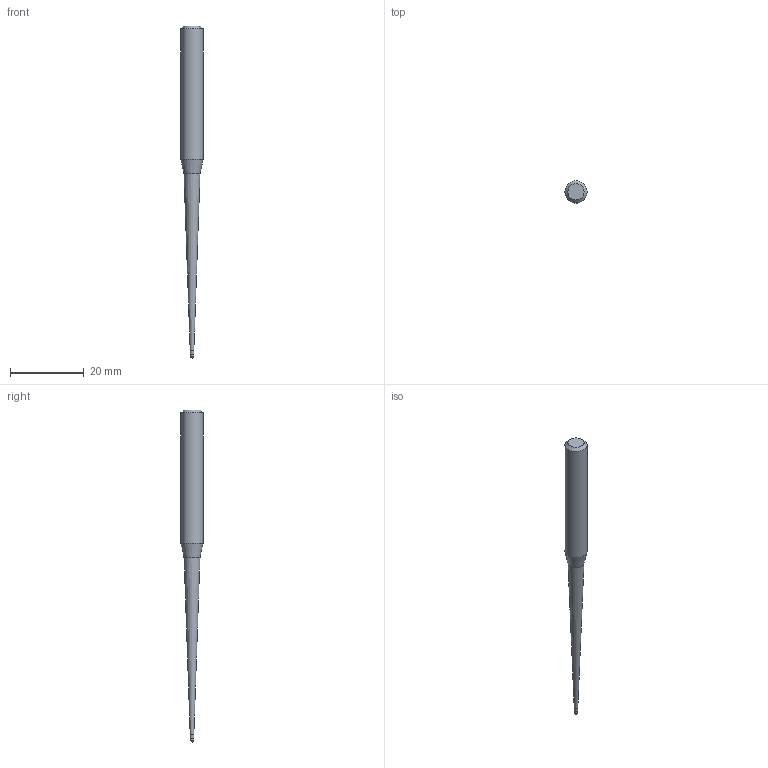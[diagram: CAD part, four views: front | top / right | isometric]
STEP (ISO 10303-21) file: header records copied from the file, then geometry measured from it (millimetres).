
FILE_DESCRIPTION((''),'2;1');
FILE_NAME('C:\Users\nsx150\AppData\Local\Temp\Mastercam 2021\SNAKH10GOD\TEMP.step','2021-10-21T13:32:22',(''),(''),'STEP Write','Mastercam 2021 ... CNC Software, Inc.','');
FILE_SCHEMA(('AUTOMOTIVE_DESIGN'));
Length unit declared in the file: millimetre
Products named in the file (1): None
Bounding box: 6 x 6 x 90 mm (x, y, z)
Volume: 1403.3 mm3; surface area: 1174.2 mm2
Topology: 2 solids, 2 shells, 10 faces, 16 edges, 9 vertices
Faces by surface type: plane 3, cylinder 3, cone 3, sphere 1
Full cylindrical faces by diameter (mm): 0.985 x1, 1 x1, 6 x1
Entity records: 232 total; most frequent: DIRECTION 40, CARTESIAN_POINT 28, AXIS2_PLACEMENT_3D 20, ORIENTED_EDGE 16, EDGE_LOOP 16, STYLED_ITEM 13, ADVANCED_FACE 10, FACE_BOUND 9
